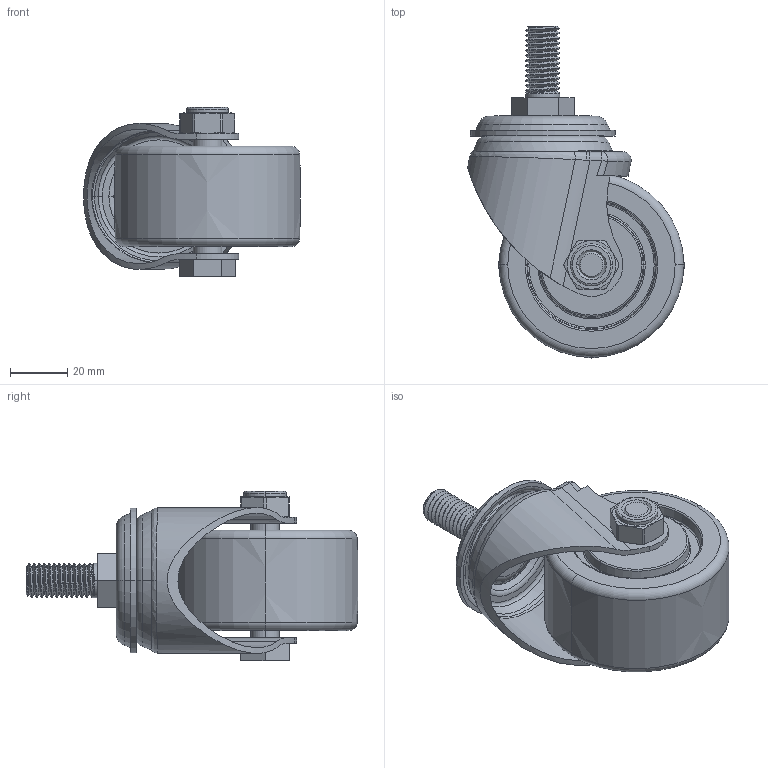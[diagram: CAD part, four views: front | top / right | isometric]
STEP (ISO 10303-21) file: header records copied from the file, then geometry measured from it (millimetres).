
FILE_DESCRIPTION((''),'2;1');
FILE_NAME('M413325_ASM','2022-01-19T',('lenovo'),(''),'PRO/ENGINEER BY PARAMETRIC TECHNOLOGY CORPORATION, 2010280','PRO/ENGINEER BY PARAMETRIC TECHNOLOGY CORPORATION, 2010280','');
FILE_SCHEMA(('CONFIG_CONTROL_DESIGN'));
Length unit declared in the file: millimetre
Products named in the file (7): M41365-311; M4130-211; 360-23-M12X25; M4125-16; M410-20-M10X53; 630-34; M413325_ASM
Assembly tree (6 placements, depth 2):
  M413325_ASM
    M41365-311
    M4130-211
    360-23-M12X25
    M4125-16
    M410-20-M10X53
    630-34
Bounding box: 75.74 x 115.97 x 59.11 mm (x, y, z)
Volume: 136554.1 mm3; surface area: 40901.5 mm2
Topology: 6 solids, 6 shells, 245 faces, 569 edges, 346 vertices
Faces by surface type: cylinder 65, plane 49, cone 47, torus 41, bspline 41, sphere 2
Entity records: 13213 total; most frequent: CARTESIAN_POINT 7731, ORIENTED_EDGE 1138, DIRECTION 1089, EDGE_CURVE 569, AXIS2_PLACEMENT_3D 462, VERTEX_POINT 346, EDGE_LOOP 267, FACE_OUTER_BOUND 245
